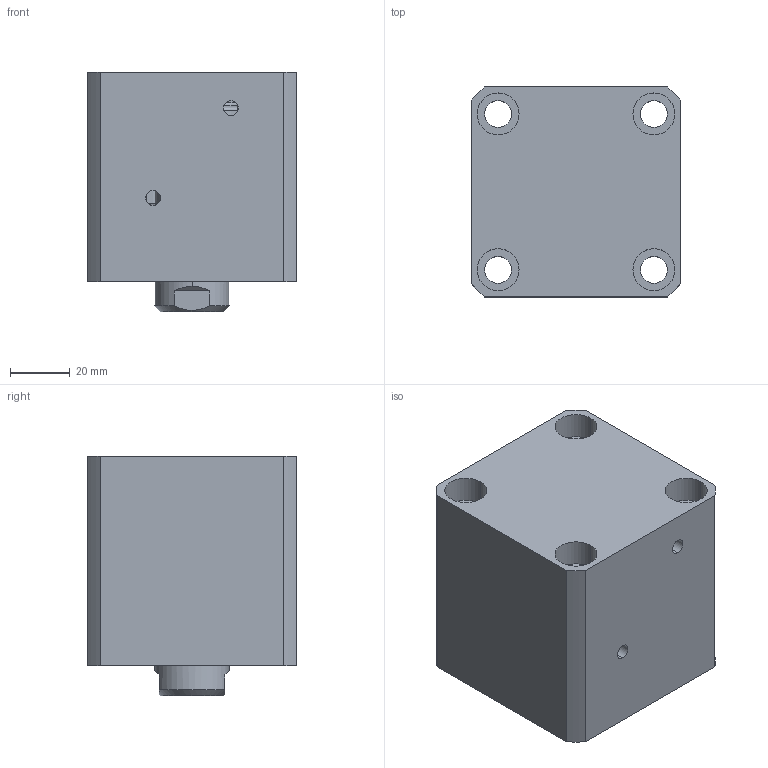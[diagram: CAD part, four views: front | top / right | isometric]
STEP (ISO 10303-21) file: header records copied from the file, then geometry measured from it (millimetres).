
FILE_DESCRIPTION (( 'STEP AP214' ), '1' );
FILE_NAME ('chtb-sdma40x15n_asm.STEP', '2018-06-06T07:47:53', ( 'Windows' ), ( 'Microsoft' ), 'SwSTEP 2.0', 'SolidWorks 2015', '' );
FILE_SCHEMA (( 'AUTOMOTIVE_DESIGN' ));
Length unit declared in the file: millimetre
Products named in the file (4): CHTB-SDMA40X15NBT; CHTB-SD40X15NHSG; CHTB-SD40QG; chtb-sdma40x15n_asm
Assembly tree (3 placements, depth 2):
  chtb-sdma40x15n_asm
    CHTB-SD40QG
    CHTB-SD40X15NHSG
    CHTB-SDMA40X15NBT
Bounding box: 70 x 70 x 80 mm (x, y, z)
Volume: 298487.7 mm3; surface area: 68212.8 mm2
Topology: 3 solids, 3 shells, 157 faces, 413 edges, 274 vertices
Faces by surface type: cylinder 84, plane 36, bspline 14, torus 14, cone 9
Entity records: 10139 total; most frequent: CARTESIAN_POINT 6157, ORIENTED_EDGE 814, DIRECTION 768, EDGE_CURVE 407, AXIS2_PLACEMENT_3D 326, VERTEX_POINT 274, EDGE_LOOP 193, CIRCLE 177
